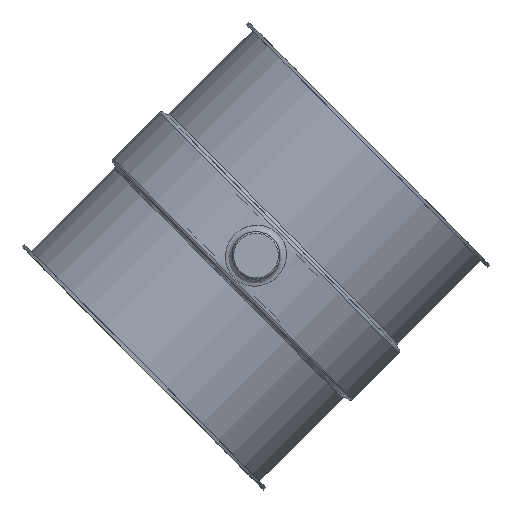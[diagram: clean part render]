
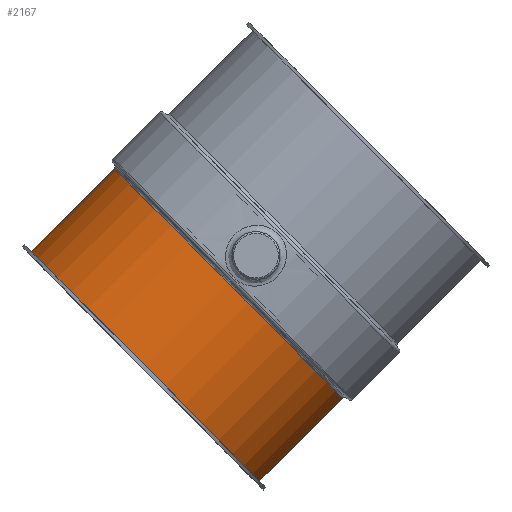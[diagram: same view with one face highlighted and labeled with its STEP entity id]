
A CAD part, top view. The second image highlights one B-rep face of the part: STEP entity #2167.
In plain terms, the highlighted cylindrical face has radius 101.5 mm (diameter 203 mm), a full revolution.
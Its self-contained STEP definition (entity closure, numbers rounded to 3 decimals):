
#1880=CARTESIAN_POINT('',(0.0,2.041,0.));
#1881=VERTEX_POINT('',#1880);
#1882=CARTESIAN_POINT('',(-101.5,2.041,0.0));
#1883=DIRECTION('',(0.0,1.0,0.0));
#1884=DIRECTION('',(1.0,0.0,0.0));
#1885=AXIS2_PLACEMENT_3D('',#1882,#1883,#1884);
#1886=CIRCLE('',#1885,101.5);
#1887=EDGE_CURVE('',#1881,#1881,#1886,.T.);
#2141=CARTESIAN_POINT('',(0.,75.541,0.0));
#2142=VERTEX_POINT('',#2141);
#2143=CARTESIAN_POINT('',(-101.5,75.541,0.0));
#2144=DIRECTION('',(0.0,-1.0,0.0));
#2145=DIRECTION('',(1.0,0.0,0.0));
#2146=AXIS2_PLACEMENT_3D('',#2143,#2144,#2145);
#2147=CIRCLE('',#2146,101.5);
#2148=EDGE_CURVE('',#2142,#2142,#2147,.T.);
#2156=CARTESIAN_POINT('',(-101.5,37.791,0.0));
#2157=DIRECTION('',(0.0,-1.0,0.0));
#2158=DIRECTION('',(1.0,0.0,0.0));
#2159=AXIS2_PLACEMENT_3D('',#2156,#2157,#2158);
#2160=CYLINDRICAL_SURFACE('',#2159,101.5);
#2161=ORIENTED_EDGE('',*,*,#1887,.T.);
#2162=EDGE_LOOP('',(#2161));
#2163=FACE_OUTER_BOUND('',#2162,.T.);
#2164=ORIENTED_EDGE('',*,*,#2148,.T.);
#2165=EDGE_LOOP('',(#2164));
#2166=FACE_BOUND('',#2165,.T.);
#2167=ADVANCED_FACE('',(#2163,#2166),#2160,.T.);
